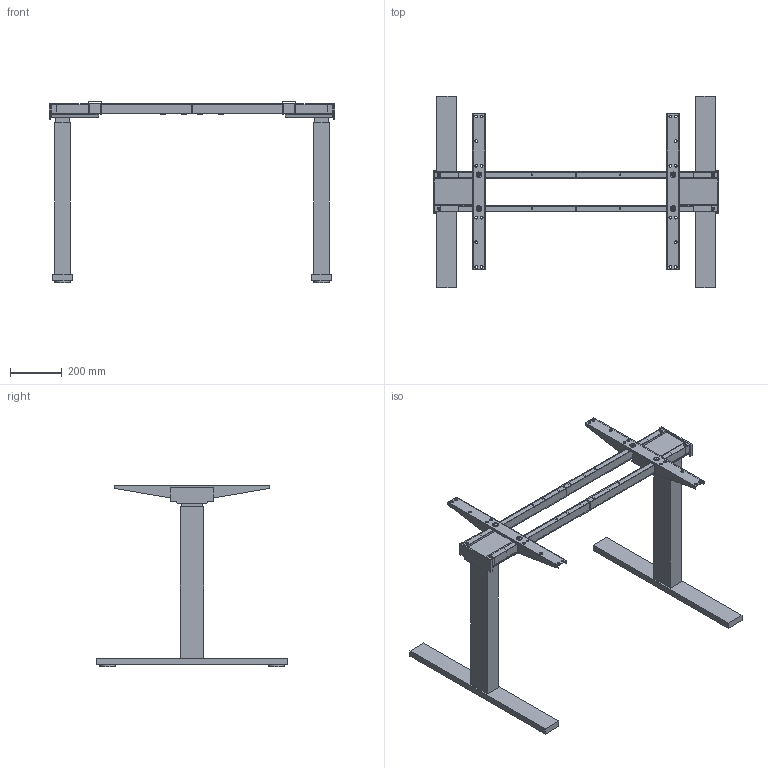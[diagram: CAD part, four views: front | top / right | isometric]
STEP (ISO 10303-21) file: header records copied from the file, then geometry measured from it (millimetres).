
FILE_DESCRIPTION( ( 'STEP AP214' ), '1' );
FILE_NAME( 'D:/Yug/2022/Actiforce_2022/QC/9309757.stp', '2022-03-02T07:45:23', ( '' ), ( '' ), ' ', 'PARTsolutions', ' ' );
FILE_SCHEMA( ( 'AUTOMOTIVE_DESIGN { 1 0 10303 214 1 1 1 1 }' ) );
Length unit declared in the file: millimetre
Products named in the file (7): 9309757(W1100XH603.9); _metal_foot_sf_570_1100_603.9; _column_sf_570_603.9; _housing_plate_sf_570; _top_support_sf_570; _crossbar_sf_570; _cover_cap_sf_570
Assembly tree (12 placements, depth 2):
  9309757(W1100XH603.9)
    _metal_foot_sf_570_1100_603.9  x2
    _column_sf_570_603.9  x2
    _housing_plate_sf_570  x2
    _top_support_sf_570  x2
    _crossbar_sf_570  x2
    _cover_cap_sf_570  x2
Bounding box: 1100 x 736 x 700 mm (x, y, z)
Volume: 12473849.7 mm3; surface area: 1980845.7 mm2
Topology: 12 solids, 12 shells, 388 faces, 958 edges, 640 vertices
Faces by surface type: plane 274, cylinder 114
Full cylindrical faces by diameter (mm): 6.5 x14, 6.8 x8, 9 x4, 10 x16, 10.5 x20, 12 x8, 12.7 x4, 13.46 x8, 17.06 x8, 17.4 x8, 22 x4, 59.84 x4
Entity records: 7294 total; most frequent: DIRECTION 950, CARTESIAN_POINT 945, ORIENTED_EDGE 844, EDGE_CURVE 422, EDGE_LOOP 342, AXIS2_PLACEMENT_3D 321, VERTEX_POINT 316, LINE 308
